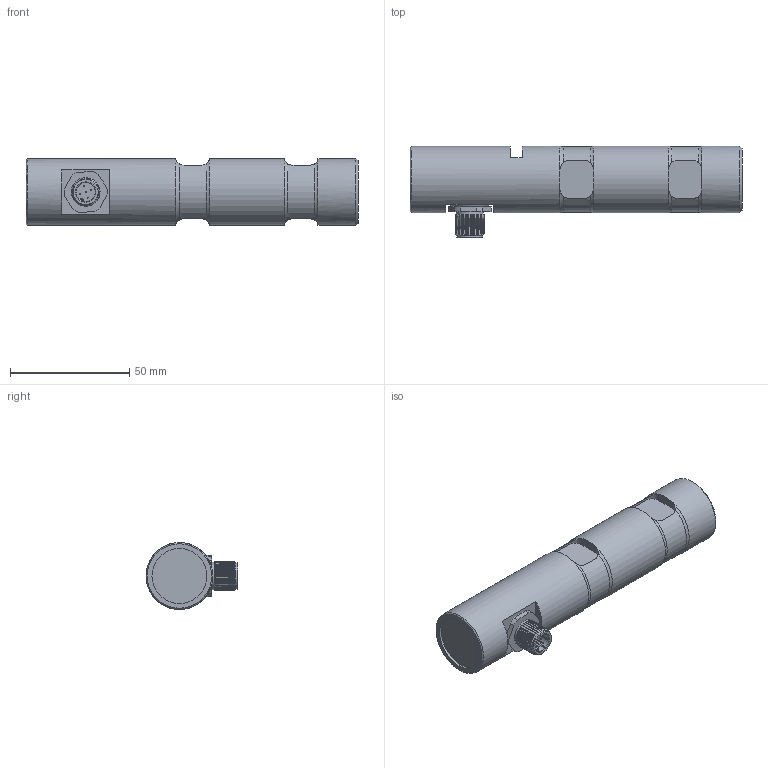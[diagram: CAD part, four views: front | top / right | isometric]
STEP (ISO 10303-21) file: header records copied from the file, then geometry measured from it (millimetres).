
FILE_DESCRIPTION(/* description */ ('Alibre Inc.'),/* implementation_level */ '2;1');
FILE_NAME(/* name */ 'export-121871C8-414A-49DC-B9CB-1B5F9BC66E93',/* time_stamp */ '2020-03-24T09:06:13+01:00',/* author */ (''),/* organization */ (''),/* preprocessor_version */ 'ST-DEVELOPER v17',/* originating_system */ 'Alibre',/* authorisation */ '');
FILE_SCHEMA (('CONFIG_CONTROL_DESIGN'));
Length unit declared in the file: centimetre
Bounding box: 139 x 38.5 x 28 mm (x, y, z)
Surface area: 167888 mm2
Topology: 7 solids, 8 shells, 224 faces, 487 edges, 287 vertices
Faces by surface type: cylinder 76, cone 71, plane 67, torus 10
Full cylindrical faces by diameter (mm): 0.5 x10, 8 x2, 10 x1, 11 x1, 11.5 x1, 12 x21, 13 x2, 14.5 x1, 23 x1, 28 x3
Entity records: 5392 total; most frequent: CARTESIAN_POINT 1209, ORIENTED_EDGE 766, DIRECTION 686, EDGE_CURVE 377, EDGE_LOOP 339, FACE_BOUND 339, AXIS2_PLACEMENT_3D 321, VERTEX_POINT 272
